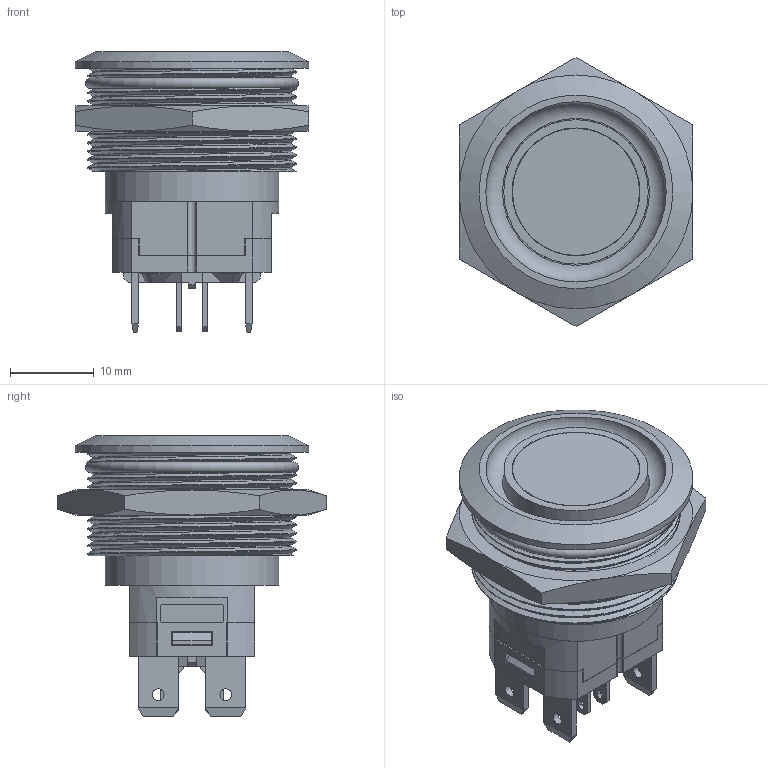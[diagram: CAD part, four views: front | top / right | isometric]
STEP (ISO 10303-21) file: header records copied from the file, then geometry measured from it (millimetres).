
FILE_DESCRIPTION(/* description */ (''),/* implementation_level */ '2;1');
FILE_NAME(/* name */ 'J25-C.stp',/* time_stamp */ '2019-11-08T13:24:29+08:00',/* author */ (''),/* organization */ (''),/* preprocessor_version */ 'ST-DEVELOPER v16.7',/* originating_system */ 'SIEMENS PLM Software NX 12.0',/* authorisation */ '');
FILE_SCHEMA (('AUTOMOTIVE_DESIGN { 1 0 10303 214 3 1 1 1 }'));
Length unit declared in the file: millimetre
Products named in the file (1): Admi6AF438ABmjw3
Bounding box: 28 x 32.22 x 33.6 mm (x, y, z)
Volume: 6582.7 mm3; surface area: 11413.8 mm2
Topology: 15 solids, 15 shells, 1003 faces, 3007 edges, 1964 vertices
Faces by surface type: plane 678, cylinder 190, sphere 90, extrusion 26, cone 13, bspline 4, torus 2
Full cylindrical faces by diameter (mm): 0.2 x4, 1.4 x4, 1.5 x4, 11.442 x1, 13 x1, 13.2 x1, 15.2 x1, 15.3 x1, 17.3 x1, 17.6 x1, 19.8 x1, 20.2 x1, 20.8 x1, 28 x1
Entity records: 43024 total; most frequent: CARTESIAN_POINT 12856, ORIENTED_EDGE 5588, DIRECTION 5095, EDGE_CURVE 2794, VECTOR 2129, LINE 2103, VERTEX_POINT 1868, AXIS2_PLACEMENT_3D 1483
